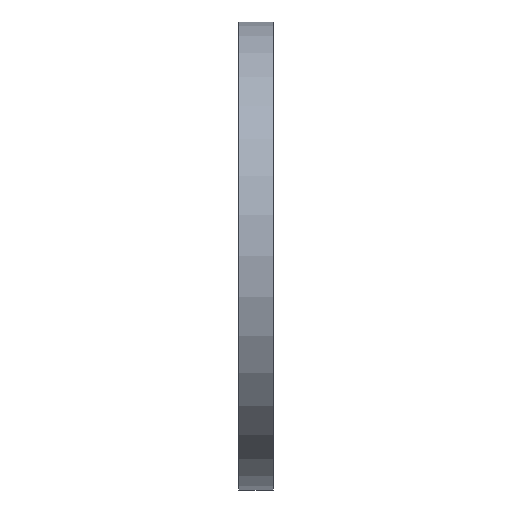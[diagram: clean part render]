
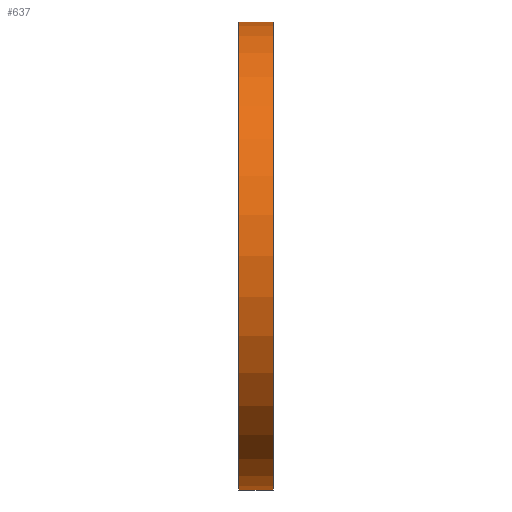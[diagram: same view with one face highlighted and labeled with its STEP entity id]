
A CAD part, left-side view. The second image highlights one B-rep face of the part: STEP entity #637.
In plain terms, the highlighted cylindrical face has radius 82.5 mm (diameter 165 mm), a partial arc.
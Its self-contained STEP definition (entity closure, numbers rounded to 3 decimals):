
#19 = CARTESIAN_POINT ( 'NONE',  ( 0., 12., -82.5 ) ) ;
#43 = CIRCLE ( 'NONE', #479, 82.5 ) ;
#68 = DIRECTION ( 'NONE',  ( 0., 0., -1. ) ) ;
#70 = LINE ( 'NONE', #236, #830 ) ;
#74 = CARTESIAN_POINT ( 'NONE',  ( 0., 12., 82.5 ) ) ;
#144 = ORIENTED_EDGE ( 'NONE', *, *, #203, .F. ) ;
#149 = CYLINDRICAL_SURFACE ( 'NONE', #851, 82.5 ) ;
#201 = VERTEX_POINT ( 'NONE', #19 ) ;
#202 = VERTEX_POINT ( 'NONE', #74 ) ;
#203 = EDGE_CURVE ( 'NONE', #202, #654, #70, .T. ) ;
#228 = DIRECTION ( 'NONE',  ( 0., -1., 0. ) ) ;
#236 = CARTESIAN_POINT ( 'NONE',  ( 0., 0., 82.5 ) ) ;
#257 = EDGE_CURVE ( 'NONE', #201, #402, #443, .T. ) ;
#266 = DIRECTION ( 'NONE',  ( 0., -1., 0. ) ) ;
#302 = DIRECTION ( 'NONE',  ( 0., -1., 0. ) ) ;
#310 = ORIENTED_EDGE ( 'NONE', *, *, #257, .T. ) ;
#311 = EDGE_LOOP ( 'NONE', ( #144, #346, #310, #414 ) ) ;
#346 = ORIENTED_EDGE ( 'NONE', *, *, #787, .T. ) ;
#355 = CARTESIAN_POINT ( 'NONE',  ( 0., 0., -82.5 ) ) ;
#389 = CIRCLE ( 'NONE', #829, 82.5 ) ;
#402 = VERTEX_POINT ( 'NONE', #857 ) ;
#413 = CARTESIAN_POINT ( 'NONE',  ( 0., 0., 82.5 ) ) ;
#414 = ORIENTED_EDGE ( 'NONE', *, *, #561, .F. ) ;
#443 = LINE ( 'NONE', #355, #756 ) ;
#479 = AXIS2_PLACEMENT_3D ( 'NONE', #823, #678, #68 ) ;
#482 = CARTESIAN_POINT ( 'NONE',  ( 0., 0., 0. ) ) ;
#545 = DIRECTION ( 'NONE',  ( 0., 0., -1. ) ) ;
#556 = CARTESIAN_POINT ( 'NONE',  ( 0., 12., 0. ) ) ;
#561 = EDGE_CURVE ( 'NONE', #654, #402, #43, .T. ) ;
#637 = ADVANCED_FACE ( 'NONE', ( #876 ), #149, .T. ) ;
#638 = DIRECTION ( 'NONE',  ( 0., 0., -1. ) ) ;
#654 = VERTEX_POINT ( 'NONE', #413 ) ;
#678 = DIRECTION ( 'NONE',  ( 0., -1., 0. ) ) ;
#756 = VECTOR ( 'NONE', #302, 1000. ) ;
#787 = EDGE_CURVE ( 'NONE', #202, #201, #389, .T. ) ;
#823 = CARTESIAN_POINT ( 'NONE',  ( 0., 0., 0. ) ) ;
#829 = AXIS2_PLACEMENT_3D ( 'NONE', #556, #853, #638 ) ;
#830 = VECTOR ( 'NONE', #228, 1000. ) ;
#851 = AXIS2_PLACEMENT_3D ( 'NONE', #482, #266, #545 ) ;
#853 = DIRECTION ( 'NONE',  ( 0., -1., 0. ) ) ;
#857 = CARTESIAN_POINT ( 'NONE',  ( 0., 0., -82.5 ) ) ;
#876 = FACE_OUTER_BOUND ( 'NONE', #311, .T. ) ;
